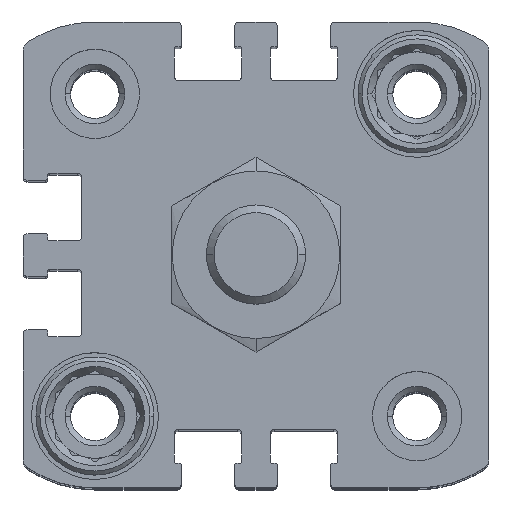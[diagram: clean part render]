
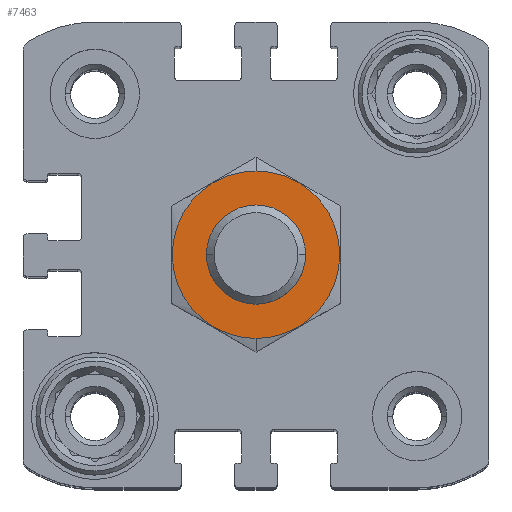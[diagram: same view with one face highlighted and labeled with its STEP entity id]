
A CAD part, top view. The second image highlights one B-rep face of the part: STEP entity #7463.
In plain terms, the highlighted planar face has unit normal (0, 0, 1).
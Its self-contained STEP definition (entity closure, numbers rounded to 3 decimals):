
#610 = EDGE_CURVE ( 'NONE', #16845, #9337, #11921, .T. ) ;
#678 = VERTEX_POINT ( 'NONE', #1802 ) ;
#1135 = DIRECTION ( 'NONE',  ( 0., 0., -1. ) ) ;
#1318 = FACE_BOUND ( 'NONE', #13507, .T. ) ;
#1567 = EDGE_LOOP ( 'NONE', ( #15241, #13447 ) ) ;
#1802 = CARTESIAN_POINT ( 'NONE',  ( 0., 5., 15.75 ) ) ;
#2619 = CARTESIAN_POINT ( 'NONE',  ( 0., 0., 15.75 ) ) ;
#3757 = DIRECTION ( 'NONE',  ( 0., 1., 0. ) ) ;
#3937 = CIRCLE ( 'NONE', #7035, 5. ) ;
#3981 = CIRCLE ( 'NONE', #16056, 8.45 ) ;
#4459 = DIRECTION ( 'NONE',  ( 0., 0., -1. ) ) ;
#4497 = DIRECTION ( 'NONE',  ( 0., 0., -1. ) ) ;
#4655 = AXIS2_PLACEMENT_3D ( 'NONE', #2619, #1135, #3757 ) ;
#4889 = AXIS2_PLACEMENT_3D ( 'NONE', #8466, #4497, #12516 ) ;
#5339 = DIRECTION ( 'NONE',  ( 0., 0., -1. ) ) ;
#6798 = CARTESIAN_POINT ( 'NONE',  ( 0., 0., 15.75 ) ) ;
#7035 = AXIS2_PLACEMENT_3D ( 'NONE', #10447, #5339, #15809 ) ;
#7463 = ADVANCED_FACE ( 'NONE', ( #11777, #1318 ), #13176, .F. ) ;
#8429 = CARTESIAN_POINT ( 'NONE',  ( 0., 0., 15.75 ) ) ;
#8466 = CARTESIAN_POINT ( 'NONE',  ( 0., 0., 15.75 ) ) ;
#8804 = CARTESIAN_POINT ( 'NONE',  ( 0., -5., 15.75 ) ) ;
#9337 = VERTEX_POINT ( 'NONE', #13400 ) ;
#10203 = EDGE_CURVE ( 'NONE', #678, #12874, #3937, .T. ) ;
#10447 = CARTESIAN_POINT ( 'NONE',  ( 0., 0., 15.75 ) ) ;
#10800 = AXIS2_PLACEMENT_3D ( 'NONE', #6798, #12085, #12179 ) ;
#11360 = ORIENTED_EDGE ( 'NONE', *, *, #15492, .T. ) ;
#11777 = FACE_OUTER_BOUND ( 'NONE', #1567, .T. ) ;
#11921 = CIRCLE ( 'NONE', #10800, 8.45 ) ;
#12085 = DIRECTION ( 'NONE',  ( 0., 0., -1. ) ) ;
#12179 = DIRECTION ( 'NONE',  ( 0., 1., 0. ) ) ;
#12299 = DIRECTION ( 'NONE',  ( 0., 1., 0. ) ) ;
#12516 = DIRECTION ( 'NONE',  ( 0., 1., 0. ) ) ;
#12753 = CIRCLE ( 'NONE', #4889, 5. ) ;
#12874 = VERTEX_POINT ( 'NONE', #8804 ) ;
#13176 = PLANE ( 'NONE',  #4655 ) ;
#13400 = CARTESIAN_POINT ( 'NONE',  ( 0., 8.45, 15.75 ) ) ;
#13447 = ORIENTED_EDGE ( 'NONE', *, *, #610, .F. ) ;
#13507 = EDGE_LOOP ( 'NONE', ( #11360, #14265 ) ) ;
#13530 = EDGE_CURVE ( 'NONE', #9337, #16845, #3981, .T. ) ;
#14080 = CARTESIAN_POINT ( 'NONE',  ( 0., -8.45, 15.75 ) ) ;
#14265 = ORIENTED_EDGE ( 'NONE', *, *, #10203, .T. ) ;
#15241 = ORIENTED_EDGE ( 'NONE', *, *, #13530, .F. ) ;
#15492 = EDGE_CURVE ( 'NONE', #12874, #678, #12753, .T. ) ;
#15809 = DIRECTION ( 'NONE',  ( 0., 1., 0. ) ) ;
#16056 = AXIS2_PLACEMENT_3D ( 'NONE', #8429, #4459, #12299 ) ;
#16845 = VERTEX_POINT ( 'NONE', #14080 ) ;
